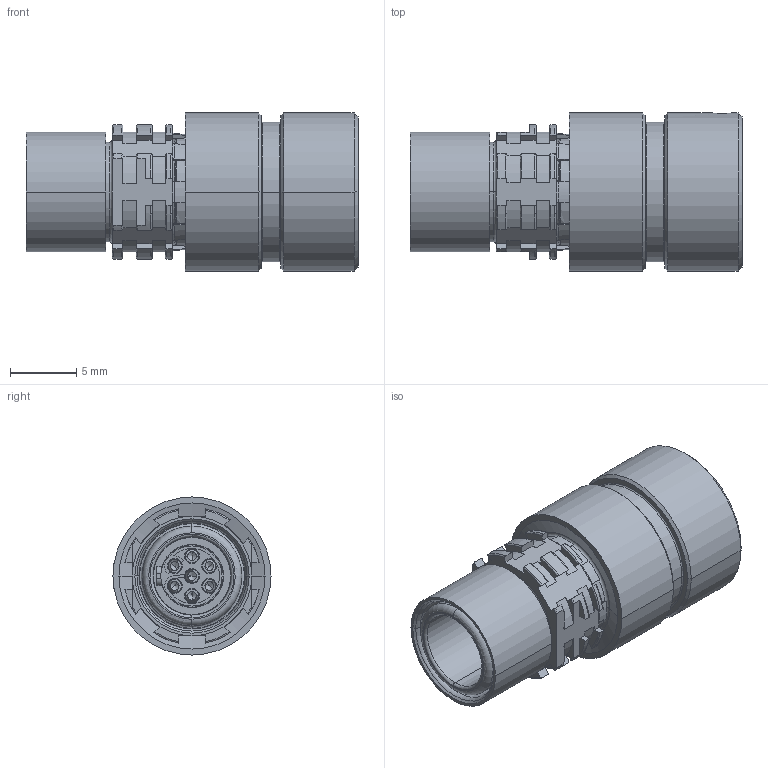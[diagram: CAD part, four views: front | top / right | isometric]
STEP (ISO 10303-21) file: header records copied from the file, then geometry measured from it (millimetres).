
FILE_DESCRIPTION((''),'2;1');
FILE_NAME('K10Y_R-P07WCD0-0000_EXTERN--_ASM','2020-10-13T10:42:37',('EUnterhaslberger'),(''),'CREO PARAMETRIC BY PTC INC, 2018300','CREO PARAMETRIC BY PTC INC, 2018300','');
FILE_SCHEMA(('AP242_MANAGED_MODEL_BASED_3D_ENGINEERING_MIM_LF { 1 0 10303 442 1 1 4 }'));
Length unit declared in the file: millimetre
Products named in the file (4): TEMP_SW_STEP_MONOBLOCK_1_1; TEMP_SW_STEP_MONOBLOCK_1_2; TEMP_SW_STEP_MONOBLOCK_1_ASM; K10Y_R-P07WCD0-0000_EXTERN--_ASM
Assembly tree (3 placements, depth 3):
  K10Y_R-P07WCD0-0000_EXTERN--_ASM
    TEMP_SW_STEP_MONOBLOCK_1_ASM
      TEMP_SW_STEP_MONOBLOCK_1_1
      TEMP_SW_STEP_MONOBLOCK_1_2
Bounding box: 25 x 11.9 x 11.9 mm (x, y, z)
Volume: 1550.7 mm3; surface area: 2655.6 mm2
Topology: 2 solids, 2 shells, 641 faces, 1870 edges, 1246 vertices
Faces by surface type: plane 224, cylinder 200, torus 114, cone 103
Entity records: 27199 total; most frequent: CARTESIAN_POINT 5345, ORIENTED_EDGE 3712, DIRECTION 3679, EDGE_CURVE 1856, AXIS2_PLACEMENT_3D 1449, VERTEX_POINT 1246, CIRCLE 799, VECTOR 781
